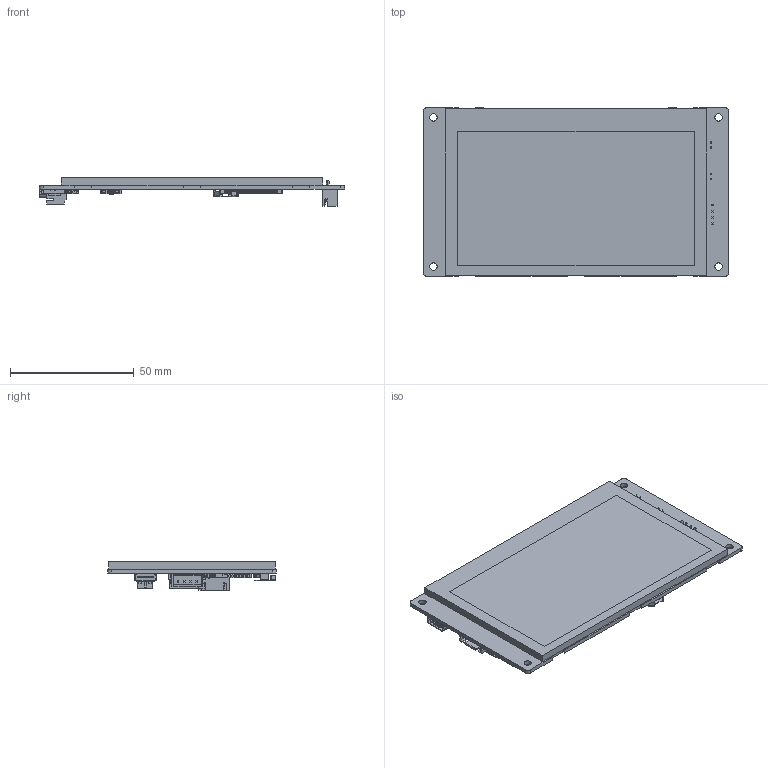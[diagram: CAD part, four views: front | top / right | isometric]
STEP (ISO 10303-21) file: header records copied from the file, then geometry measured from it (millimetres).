
FILE_DESCRIPTION(/* description */ (''),/* implementation_level */ '2;1');
FILE_NAME(/* name */ 'C:\Users\zhaoyunqi\Desktop\方案\终版\12.S43\S43-STEP模型.stp',/* time_stamp */ '2025-12-26T19:11:31+08:00',/* author */ ('zhaoyunqi'),/* organization */ (''),/* preprocessor_version */ 'ST-DEVELOPER v18',/* originating_system */ 'Autodesk Inventor 2020',/* authorisation */ '');
FILE_SCHEMA (('AUTOMOTIVE_DESIGN { 1 0 10303 214 3 1 1 }'));
Products named in the file (18): 模型; PCB; CR-927; BAT-SMD_MY-927-02~BAT-SMD_MY-927-02~GGM5; FPC-0.50-6P; FPC-SMD_P0.50-6P_LCS-SJ-H2.0~FPC-SMD_P0.50-6P_LCS-SJ-H2.0~GGM5; FPC-0.50-40P; FPC-SMD_40P-P0.50_HC-FPC-0.5-40P-CSH20~FPC-SMD_40P-P0.50_HC-FPC-0.5-4
0P-CSH20~GGM5; TF; SIM-SMD_TF110-AG1-004~SIM-SMD_TF110-AG1-004~GGM5; TYPE-C-16P; USB_TYPE-C-16P~USB-C_SMD-TYPE-C-31-M-12~GGM5; XH_4P-P2.50; CONN-SMD_4P-P2.50-WT~CONN-SMD_4P-P2.50-WT~GGM5; XH2.54-4P; CONN-TH_4P-P2.50-XH2.54-4P~CONN-TH_4P-P2.50-XH2.54-4P~GGM5; XH2.0-2P; CONN-TH_2P-P2.00_HX-2.0MM-2P-ZZ~CONN-TH_2P-P2.00_HX-2.0MM-2P-ZZ~nuVk
Assembly tree (18 placements, depth 3):
  模型
    PCB
    CR-927
      BAT-SMD_MY-927-02~BAT-SMD_MY-927-02~GGM5
    FPC-0.50-6P
      FPC-SMD_P0.50-6P_LCS-SJ-H2.0~FPC-SMD_P0.50-6P_LCS-SJ-H2.0~GGM5
    FPC-0.50-40P
      FPC-SMD_40P-P0.50_HC-FPC-0.5-40P-CSH20~FPC-SMD_40P-P0.50_HC-FPC-0.5-4
0P-CSH20~GGM5
    TF
      SIM-SMD_TF110-AG1-004~SIM-SMD_TF110-AG1-004~GGM5
    TYPE-C-16P
      USB_TYPE-C-16P~USB-C_SMD-TYPE-C-31-M-12~GGM5
    XH_4P-P2.50
      CONN-SMD_4P-P2.50-WT~CONN-SMD_4P-P2.50-WT~GGM5
    XH2.0-2P  x2
      CONN-TH_2P-P2.00_HX-2.0MM-2P-ZZ~CONN-TH_2P-P2.00_HX-2.0MM-2P-ZZ~nuVk
    XH2.54-4P
      CONN-TH_4P-P2.50-XH2.54-4P~CONN-TH_4P-P2.50-XH2.54-4P~GGM5
Bounding box: 123.25 x 68.25 x 11.6 mm (x, y, z)
Volume: 35479.2 mm3; surface area: 48925.9 mm2
Topology: 84 solids, 84 shells, 5998 faces, 16365 edges, 10688 vertices
Faces by surface type: plane 4228, bspline 984, cylinder 683, torus 102, sphere 1
Full cylindrical faces by diameter (mm): 0.511 x2, 0.731 x1, 0.8 x2, 1.5 x2, 3 x4
Entity records: 192812 total; most frequent: CARTESIAN_POINT 45756, ORIENTED_EDGE 30924, DIRECTION 26235, EDGE_CURVE 15462, LINE 12221, VECTOR 12221, VERTEX_POINT 10088, AXIS2_PLACEMENT_3D 7007
